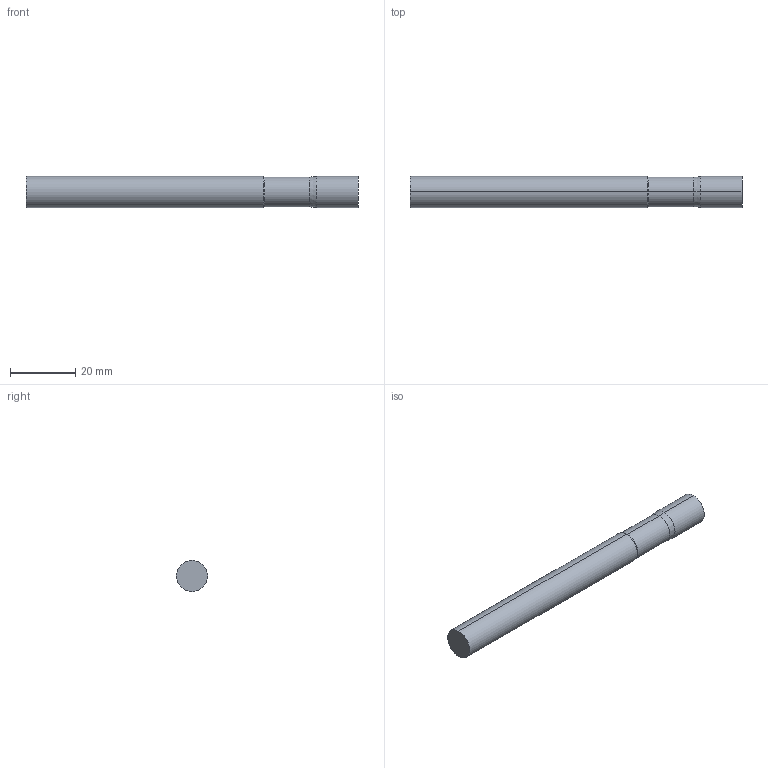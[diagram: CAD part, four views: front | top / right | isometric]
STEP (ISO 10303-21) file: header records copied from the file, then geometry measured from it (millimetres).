
FILE_DESCRIPTION (( 'STEP AP214' ), '1' );
FILE_NAME ('SSIRN70375-000.STEP', '2025-05-30T14:23:40', ( '' ), ( '' ), 'SwSTEP 2.0', 'SolidWorks 2023', '' );
FILE_SCHEMA (( 'AUTOMOTIVE_DESIGN' ));
Length unit declared in the file: inch
Products named in the file (3): SSI7 Cut Only_SSIRN70375-000; SSIRN70375-000; SSI7 Shank Only_SSIRN70375-000
Assembly tree (2 placements, depth 2):
  SSIRN70375-000
    SSI7 Cut Only_SSIRN70375-000
    SSI7 Shank Only_SSIRN70375-000
Bounding box: 101.6 x 9.53 x 9.53 mm (x, y, z)
Volume: 7128.1 mm3; surface area: 3303.7 mm2
Topology: 2 solids, 2 shells, 14 faces, 24 edges, 14 vertices
Faces by surface type: cylinder 6, plane 4, cone 4
Entity records: 432 total; most frequent: DIRECTION 76, CARTESIAN_POINT 57, ORIENTED_EDGE 48, AXIS2_PLACEMENT_3D 33, EDGE_CURVE 24, VERTEX_POINT 14, FACE_OUTER_BOUND 14, ADVANCED_FACE 14
